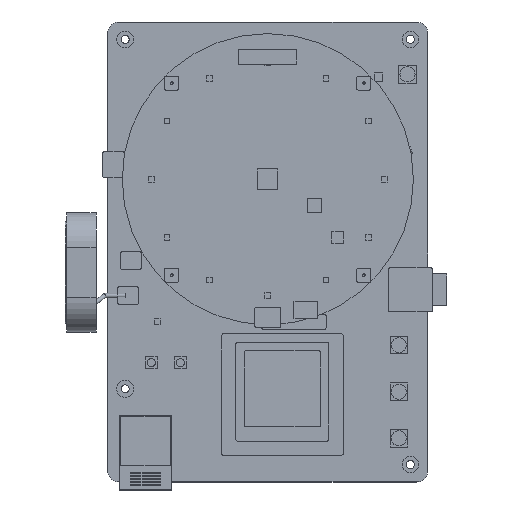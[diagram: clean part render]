
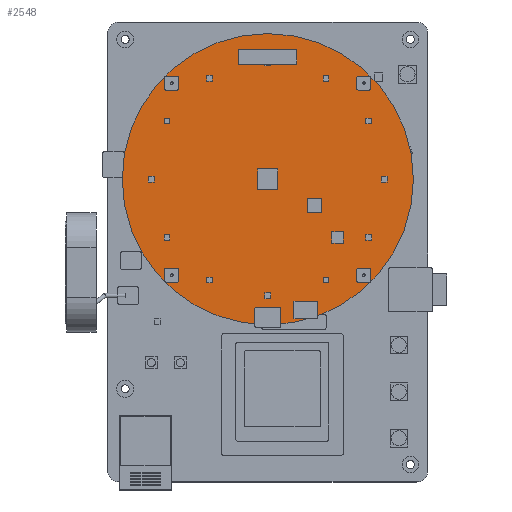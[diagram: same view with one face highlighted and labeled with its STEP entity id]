
A CAD part, top view. The second image highlights one B-rep face of the part: STEP entity #2548.
In plain terms, the highlighted planar face has unit normal (0, 0, 1).
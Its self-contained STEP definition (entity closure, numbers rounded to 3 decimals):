
#2463 = VERTEX_POINT('',#2464);
#2464 = CARTESIAN_POINT('',(50.,25.,11.2));
#2471 = CYLINDRICAL_SURFACE('',#2472,50.);
#2472 = AXIS2_PLACEMENT_3D('',#2473,#2474,#2475);
#2473 = CARTESIAN_POINT('',(0.,25.,10.));
#2474 = DIRECTION('',(-0.,-0.,-1.));
#2475 = DIRECTION('',(1.,0.,0.));
#2490 = EDGE_CURVE('',#2463,#2463,#2491,.T.);
#2491 = SURFACE_CURVE('',#2492,(#2497,#2504),.PCURVE_S1.);
#2492 = CIRCLE('',#2493,50.);
#2493 = AXIS2_PLACEMENT_3D('',#2494,#2495,#2496);
#2494 = CARTESIAN_POINT('',(0.,25.,11.2));
#2495 = DIRECTION('',(0.,0.,1.));
#2496 = DIRECTION('',(1.,0.,0.));
#2497 = PCURVE('',#2471,#2498);
#2498 = DEFINITIONAL_REPRESENTATION('',(#2499),#2503);
#2499 = LINE('',#2500,#2501);
#2500 = CARTESIAN_POINT('',(-0.,-1.2));
#2501 = VECTOR('',#2502,1.);
#2502 = DIRECTION('',(-1.,0.));
#2503 = ( GEOMETRIC_REPRESENTATION_CONTEXT(2) 
PARAMETRIC_REPRESENTATION_CONTEXT() REPRESENTATION_CONTEXT('2D SPACE',''
  ) );
#2504 = PCURVE('',#2505,#2510);
#2505 = PLANE('',#2506);
#2506 = AXIS2_PLACEMENT_3D('',#2507,#2508,#2509);
#2507 = CARTESIAN_POINT('',(0.,25.,11.2));
#2508 = DIRECTION('',(0.,0.,1.));
#2509 = DIRECTION('',(1.,0.,-0.));
#2510 = DEFINITIONAL_REPRESENTATION('',(#2511),#2515);
#2511 = CIRCLE('',#2512,50.);
#2512 = AXIS2_PLACEMENT_2D('',#2513,#2514);
#2513 = CARTESIAN_POINT('',(0.,0.));
#2514 = DIRECTION('',(1.,0.));
#2515 = ( GEOMETRIC_REPRESENTATION_CONTEXT(2) 
PARAMETRIC_REPRESENTATION_CONTEXT() REPRESENTATION_CONTEXT('2D SPACE',''
  ) );
#2548 = ADVANCED_FACE('',(#2549),#2505,.T.);
#2549 = FACE_BOUND('',#2550,.T.);
#2550 = EDGE_LOOP('',(#2551));
#2551 = ORIENTED_EDGE('',*,*,#2490,.T.);
